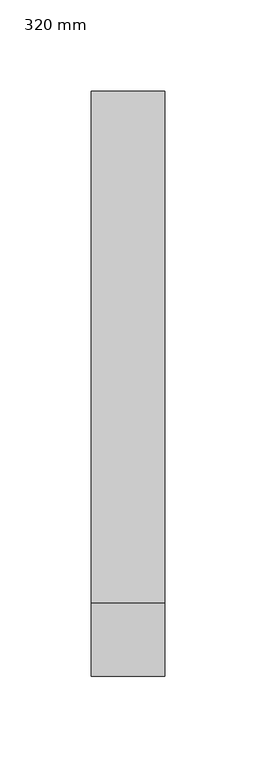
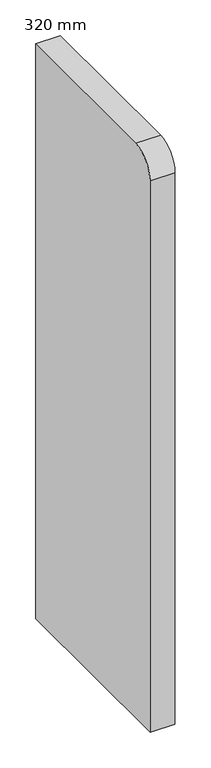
"""IFC4 building model written with IfcOpenShell, lengths in millimetres: furniture geometry, MATERIA-Monolite-Endpiece : 320 mm."""

from ifc_helpers import new_model, si_unit, point, frame, frame_2d, origin, place, context, project, spatial, polyline, circle_curve, trimmed, segment, composite_curve, outline, extrude, source, transform, mapped, element, save


def furniture_320_mm_388ba201(model_context):
    return source(origin(), model_context, "Body", "SweptSolid", [
        extrude(outline(composite_curve([segment(polyline([(-280.0, 1230.0), (0.0, 1230.0), (0.0, 248.0), (-320.0, 248.0), (-320.0, 1190.0)]), True, "CONTINUOUS"), segment(trimmed(circle_curve(frame_2d((-280.0, 1190.0)), 40.0), [point((-320.0, 1190.0))], [point((-280.0, 1230.0))], False, "CARTESIAN"), True, "CONTINUOUS")], self_intersect=False)), frame((-39.9999749, 0.0, 0.0), z_axis=(1.0, 0.0, 0.0), x_axis=(0.0, 1.0, 0.0)), (0.0, 0.0, 1.0), 39.9999749),
    ])


if __name__ == "__main__":
    model = new_model("IFC4")
    model_context = context("Model", 3, world=origin())
    ifc_project = project(units=[si_unit("LENGTHUNIT", "METRE", prefix="MILLI")], contexts=[model_context])
    site = spatial("IfcSite", under=ifc_project)
    building = spatial("IfcBuilding", under=site)
    placement = place(None, origin())
    furniture_320_mm_shape = furniture_320_mm_388ba201(model_context)
    element("IfcFurniture", 1, ObjectType="MATERIA-Monolite-Endpiece : 320 mm", at=placement, inside=building, context=model_context, shape_type="MappedRepresentation", body=[
        mapped(furniture_320_mm_shape, transform((0.0, 0.0, 0.0), x_axis=(1.0, 0.0, 0.0), y_axis=(0.0, 1.0, 0.0), z_axis=(0.0, 0.0, 1.0))),
    ])
    save(model, "model.ifc")
